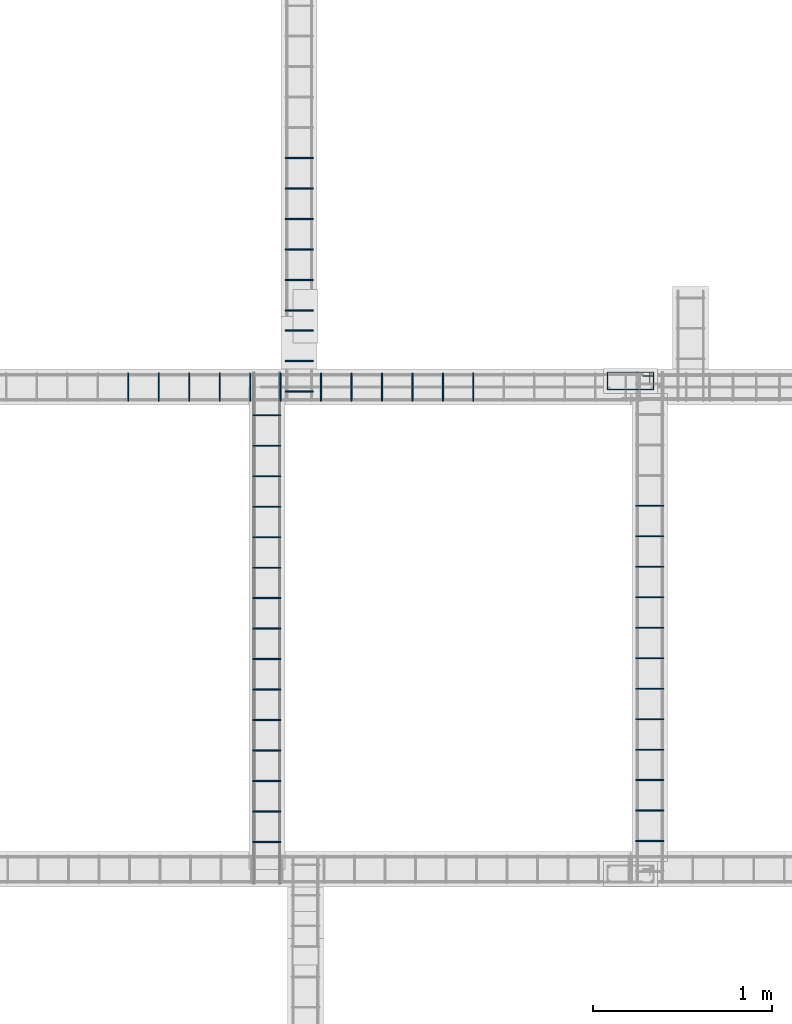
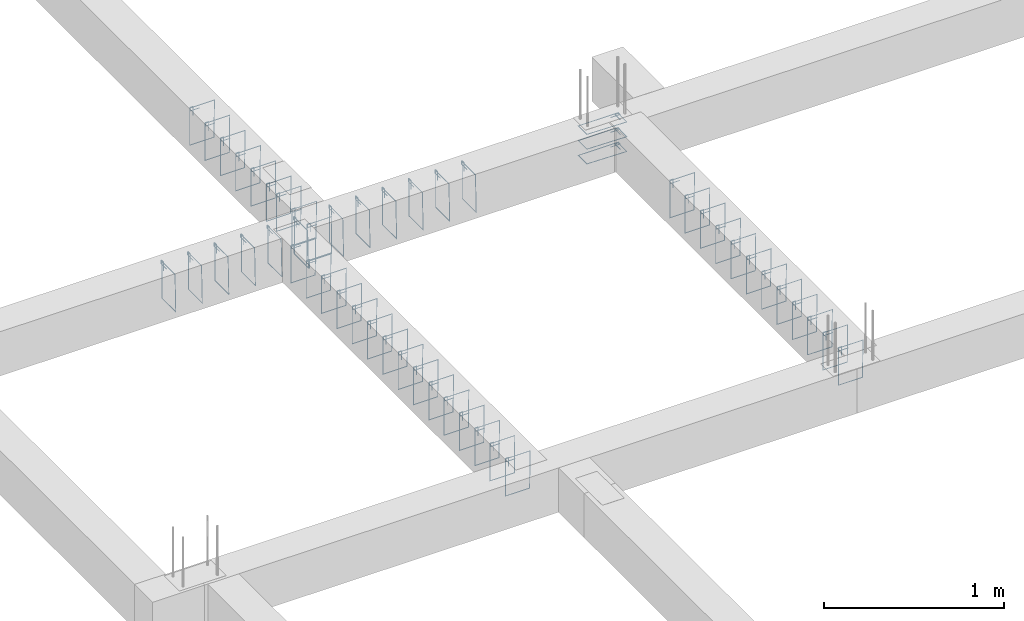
# One storey, part 113 of 150: 51 reinforcing bars.
"""IFC4 building model written with IfcOpenShell, lengths in centimetres."""

from ifc_helpers import new_model, entity, si_unit, derived_unit, frame, origin_with_axes, place, context, project, spatial, source, transform, mapped, element, save


model = new_model("IFC4")

# Units and contexts
model_context = context("Model", 3, precision=1e-05, world=origin_with_axes(), identifier="Body")
ifc_project = project(units=[si_unit("LENGTHUNIT", "METRE", prefix="CENTI"), si_unit("VOLUMEUNIT", "CUBIC_METRE"), si_unit("AREAUNIT", "SQUARE_METRE"), si_unit("POWERUNIT", "WATT"), si_unit("LUMINOUSFLUXUNIT", "LUMEN"), si_unit("ELECTRICCURRENTUNIT", "AMPERE"), si_unit("PRESSUREUNIT", "PASCAL", prefix="KILO"), si_unit("MASSUNIT", "GRAM", prefix="KILO"), si_unit("PLANEANGLEUNIT", "RADIAN"), derived_unit("VOLUMETRICFLOWRATEUNIT", [(si_unit("LENGTHUNIT", "METRE"), 3), (si_unit("TIMEUNIT", "SECOND"), -1)])], contexts=[model_context])

# Site, building, storey
site_placement = place(None, frame((-4000.0, 0.0, 0.0), z_axis=(0.0, 0.0, 1.0), x_axis=(1.0, 0.0, 0.0)))
site = spatial("IfcSite", under=ifc_project, at=site_placement, Name="PADRÃO")
building_placement = place(site_placement, frame((0.0, 0.0, -14.0)))
building = spatial("IfcBuilding", under=site, at=building_placement, Name="CRECHE PRÉ-ESCOLA TIPO 2")
placement = place(building_placement, origin_with_axes())
storey_placement = place(placement, frame((0.0, 0.0, 30.0), z_axis=(0.0, 0.0, 1.0), x_axis=(1.0, 0.0, 0.0)))
storey = spatial("IfcBuildingStorey", under=building, at=storey_placement, Name="VIGA BALDRAME", CompositionType="ELEMENT", Elevation=16.0)

# Reinforcing bars
shared_shape_1 = source(origin_with_axes(), model_context, "Body", "AdvancedSweptSolid", [
    entity("IfcSweptDiskSolid", entity("IfcCompositeCurve", [entity("IfcCompositeCurveSegment", "CONTINUOUS", True, entity("IfcPolyline", [entity("IfcCartesianPoint", [4.25, 21.75, 0.0]), entity("IfcCartesianPoint", [4.25, 27.75, 0.0])])), entity("IfcCompositeCurveSegment", "CONTINUOUS", True, entity("IfcPolyline", [entity("IfcCartesianPoint", [4.25, 27.75, 0.0]), entity("IfcCartesianPoint", [2.25, 27.75, 0.0])])), entity("IfcCompositeCurveSegment", "CONTINUOUS", True, entity("IfcPolyline", [entity("IfcCartesianPoint", [2.25, 27.75, 0.0]), entity("IfcCartesianPoint", [2.25, 2.25, 0.0])])), entity("IfcCompositeCurveSegment", "CONTINUOUS", True, entity("IfcPolyline", [entity("IfcCartesianPoint", [2.25, 2.25, 0.0]), entity("IfcCartesianPoint", [11.75, 2.25, 0.0])])), entity("IfcCompositeCurveSegment", "CONTINUOUS", True, entity("IfcPolyline", [entity("IfcCartesianPoint", [11.75, 2.25, 0.0]), entity("IfcCartesianPoint", [11.75, 27.75, -0.5])])), entity("IfcCompositeCurveSegment", "CONTINUOUS", True, entity("IfcPolyline", [entity("IfcCartesianPoint", [11.75, 27.75, -0.5]), entity("IfcCartesianPoint", [2.25, 27.75, -0.5])])), entity("IfcCompositeCurveSegment", "CONTINUOUS", True, entity("IfcPolyline", [entity("IfcCartesianPoint", [2.25, 27.75, -0.5]), entity("IfcCartesianPoint", [2.25, 25.75, -0.5])])), entity("IfcCompositeCurveSegment", "CONTINUOUS", True, entity("IfcPolyline", [entity("IfcCartesianPoint", [2.25, 25.75, -0.5]), entity("IfcCartesianPoint", [8.25, 25.75, -0.5])]))], False), 0.25),
])
for number, where, z_axis, x_axis, name in (
    (1, (670.0, 3479.49, -15.0), (0.0, 0.0, 1.0), (0.0, -1.0, 0.0), "P39 - Estribo"),
    (2, (670.0, 3479.49, -25.0), (0.0, 0.0, 1.0), (0.0, -1.0, 0.0), "P39 - Estribo"),
    (3, (670.0, 3479.49, -5.0), (0.0, 0.0, 1.0), (0.0, -1.0, 0.0), "P39 - Estribo"),
):
    element("IfcReinforcingBar", number, at=place(storey_placement, frame(where, z_axis=z_axis, x_axis=x_axis)), inside=storey, Name=name, BarLength=0.0, CrossSectionArea=1.9634954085e-05, NominalDiameter=0.5, PredefinedType="MAIN", context=model_context, shape_type="MappedRepresentation", body=[
        mapped(shared_shape_1, transform((0.0, 0.0, 0.0), scale=1.0)),
    ])
shared_shape_2 = source(origin_with_axes(), model_context, "Body", "AdvancedSweptSolid", [
    entity("IfcSweptDiskSolid", entity("IfcCompositeCurve", [entity("IfcCompositeCurveSegment", "CONTINUOUS", True, entity("IfcPolyline", [entity("IfcCartesianPoint", [2.0, -6.0, 0.0]), entity("IfcCartesianPoint", [2.0, 0.0, 0.0])])), entity("IfcCompositeCurveSegment", "CONTINUOUS", True, entity("IfcPolyline", [entity("IfcCartesianPoint", [2.0, 0.0, 0.0]), entity("IfcCartesianPoint", [0.0, 0.0, 0.0])])), entity("IfcCompositeCurveSegment", "CONTINUOUS", True, entity("IfcPolyline", [entity("IfcCartesianPoint", [0.0, 0.0, 0.0]), entity("IfcCartesianPoint", [0.0, -25.5, 0.0])])), entity("IfcCompositeCurveSegment", "CONTINUOUS", True, entity("IfcPolyline", [entity("IfcCartesianPoint", [0.0, -25.5, 0.0]), entity("IfcCartesianPoint", [15.5, -25.5, 0.0])])), entity("IfcCompositeCurveSegment", "CONTINUOUS", True, entity("IfcPolyline", [entity("IfcCartesianPoint", [15.5, -25.5, 0.0]), entity("IfcCartesianPoint", [15.5, 0.0, 0.5])])), entity("IfcCompositeCurveSegment", "CONTINUOUS", True, entity("IfcPolyline", [entity("IfcCartesianPoint", [15.5, 0.0, 0.5]), entity("IfcCartesianPoint", [0.0, 0.0, 0.5])])), entity("IfcCompositeCurveSegment", "CONTINUOUS", True, entity("IfcPolyline", [entity("IfcCartesianPoint", [0.0, 0.0, 0.5]), entity("IfcCartesianPoint", [0.0, -2.0, 0.5])])), entity("IfcCompositeCurveSegment", "CONTINUOUS", True, entity("IfcPolyline", [entity("IfcCartesianPoint", [0.0, -2.0, 0.5]), entity("IfcCartesianPoint", [6.0, -2.0, 0.5])]))], False), 0.25),
])
for number, where, z_axis, x_axis, name in (
    (4, (474.44, 3283.51, -2.25), (0.0, -1.0, 0.0), (1.0, 0.0, 0.0), "V172 - Estribo"),
    (5, (474.44, 3300.51, -2.25), (0.0, -1.0, 0.0), (1.0, 0.0, 0.0), "V172 - Estribo"),
    (6, (474.44, 3317.51, -2.25), (0.0, -1.0, 0.0), (1.0, 0.0, 0.0), "V172 - Estribo"),
    (7, (474.44, 3334.51, -2.25), (0.0, -1.0, 0.0), (1.0, 0.0, 0.0), "V172 - Estribo"),
    (8, (474.44, 3351.51, -2.25), (0.0, -1.0, 0.0), (1.0, 0.0, 0.0), "V172 - Estribo"),
    (9, (474.44, 3215.51, -2.25), (0.0, -1.0, 0.0), (1.0, 0.0, 0.0), "V172 - Estribo"),
    (10, (474.44, 3368.51, -2.25), (0.0, -1.0, 0.0), (1.0, 0.0, 0.0), "V172 - Estribo"),
    (11, (474.44, 3453.51, -2.25), (0.0, -1.0, 0.0), (1.0, 0.0, 0.0), "V172 - Estribo"),
    (12, (474.44, 3436.51, -2.25), (0.0, -1.0, 0.0), (1.0, 0.0, 0.0), "V172 - Estribo"),
    (13, (474.44, 3419.51, -2.25), (0.0, -1.0, 0.0), (1.0, 0.0, 0.0), "V172 - Estribo"),
    (14, (474.44, 3402.51, -2.25), (0.0, -1.0, 0.0), (1.0, 0.0, 0.0), "V172 - Estribo"),
    (15, (474.44, 3385.51, -2.25), (0.0, -1.0, 0.0), (1.0, 0.0, 0.0), "V172 - Estribo"),
    (16, (474.44, 3232.51, -2.25), (0.0, -1.0, 0.0), (1.0, 0.0, 0.0), "V172 - Estribo"),
    (17, (474.44, 3249.51, -2.25), (0.0, -1.0, 0.0), (1.0, 0.0, 0.0), "V172 - Estribo"),
    (18, (474.44, 3266.51, -2.25), (0.0, -1.0, 0.0), (1.0, 0.0, 0.0), "V172 - Estribo"),
):
    element("IfcReinforcingBar", number, at=place(storey_placement, frame(where, z_axis=z_axis, x_axis=x_axis)), inside=storey, Name=name, BarLength=0.0, CrossSectionArea=1.9634954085e-05, NominalDiameter=0.5, PredefinedType="MAIN", context=model_context, shape_type="MappedRepresentation", body=[
        mapped(shared_shape_2, transform((0.0, 0.0, 0.0), scale=1.0)),
    ])
shared_shape_3 = source(origin_with_axes(), model_context, "Body", "AdvancedSweptSolid", [
    entity("IfcSweptDiskSolid", entity("IfcCompositeCurve", [entity("IfcCompositeCurveSegment", "CONTINUOUS", True, entity("IfcPolyline", [entity("IfcCartesianPoint", [2.0, -6.0, 0.0]), entity("IfcCartesianPoint", [2.0, 0.0, 0.0])])), entity("IfcCompositeCurveSegment", "CONTINUOUS", True, entity("IfcPolyline", [entity("IfcCartesianPoint", [2.0, 0.0, 0.0]), entity("IfcCartesianPoint", [0.0, 0.0, 0.0])])), entity("IfcCompositeCurveSegment", "CONTINUOUS", True, entity("IfcPolyline", [entity("IfcCartesianPoint", [0.0, 0.0, 0.0]), entity("IfcCartesianPoint", [0.0, -25.5, 0.0])])), entity("IfcCompositeCurveSegment", "CONTINUOUS", True, entity("IfcPolyline", [entity("IfcCartesianPoint", [0.0, -25.5, 0.0]), entity("IfcCartesianPoint", [15.5, -25.5, 0.0])])), entity("IfcCompositeCurveSegment", "CONTINUOUS", True, entity("IfcPolyline", [entity("IfcCartesianPoint", [15.5, -25.5, 0.0]), entity("IfcCartesianPoint", [15.5, 0.0, 0.5])])), entity("IfcCompositeCurveSegment", "CONTINUOUS", True, entity("IfcPolyline", [entity("IfcCartesianPoint", [15.5, 0.0, 0.5]), entity("IfcCartesianPoint", [0.0, 0.0, 0.5])])), entity("IfcCompositeCurveSegment", "CONTINUOUS", True, entity("IfcPolyline", [entity("IfcCartesianPoint", [0.0, 0.0, 0.5]), entity("IfcCartesianPoint", [0.0, -2.0, 0.5])])), entity("IfcCompositeCurveSegment", "CONTINUOUS", True, entity("IfcPolyline", [entity("IfcCartesianPoint", [0.0, -2.0, 0.5]), entity("IfcCartesianPoint", [6.0, -2.0, 0.5])]))], False), 0.25),
])
for number, where, z_axis, x_axis, name in (
    (19, (492.44, 3466.75, -2.25), (0.0, -1.0, 0.0), (1.0, 0.0, 0.0), "V173 - Estribo"),
    (20, (492.44, 3483.75, -2.25), (0.0, -1.0, 0.0), (1.0, 0.0, 0.0), "V173 - Estribo"),
    (21, (492.44, 3500.75, -2.25), (0.0, -1.0, 0.0), (1.0, 0.0, 0.0), "V173 - Estribo"),
):
    element("IfcReinforcingBar", number, at=place(storey_placement, frame(where, z_axis=z_axis, x_axis=x_axis)), inside=storey, Name=name, BarLength=0.0, CrossSectionArea=1.9634954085e-05, NominalDiameter=0.5, PredefinedType="MAIN", context=model_context, shape_type="MappedRepresentation", body=[
        mapped(shared_shape_3, transform((0.0, 0.0, 0.0), scale=1.0)),
    ])
shared_shape_4 = source(origin_with_axes(), model_context, "Body", "AdvancedSweptSolid", [
    entity("IfcSweptDiskSolid", entity("IfcCompositeCurve", [entity("IfcCompositeCurveSegment", "CONTINUOUS", True, entity("IfcPolyline", [entity("IfcCartesianPoint", [2.0, -6.0, 0.0]), entity("IfcCartesianPoint", [2.0, 0.0, 0.0])])), entity("IfcCompositeCurveSegment", "CONTINUOUS", True, entity("IfcPolyline", [entity("IfcCartesianPoint", [2.0, 0.0, 0.0]), entity("IfcCartesianPoint", [0.0, 0.0, 0.0])])), entity("IfcCompositeCurveSegment", "CONTINUOUS", True, entity("IfcPolyline", [entity("IfcCartesianPoint", [0.0, 0.0, 0.0]), entity("IfcCartesianPoint", [0.0, -25.5, 0.0])])), entity("IfcCompositeCurveSegment", "CONTINUOUS", True, entity("IfcPolyline", [entity("IfcCartesianPoint", [0.0, -25.5, 0.0]), entity("IfcCartesianPoint", [15.5, -25.5, 0.0])])), entity("IfcCompositeCurveSegment", "CONTINUOUS", True, entity("IfcPolyline", [entity("IfcCartesianPoint", [15.5, -25.5, 0.0]), entity("IfcCartesianPoint", [15.5, 0.0, 0.5])])), entity("IfcCompositeCurveSegment", "CONTINUOUS", True, entity("IfcPolyline", [entity("IfcCartesianPoint", [15.5, 0.0, 0.5]), entity("IfcCartesianPoint", [0.0, 0.0, 0.5])])), entity("IfcCompositeCurveSegment", "CONTINUOUS", True, entity("IfcPolyline", [entity("IfcCartesianPoint", [0.0, 0.0, 0.5]), entity("IfcCartesianPoint", [0.0, -2.0, 0.5])])), entity("IfcCompositeCurveSegment", "CONTINUOUS", True, entity("IfcPolyline", [entity("IfcCartesianPoint", [0.0, -2.0, 0.5]), entity("IfcCartesianPoint", [6.0, -2.0, 0.5])]))], False), 0.25),
])
for number, where, z_axis, x_axis, name in (
    (22, (492.44, 3597.0, -2.25), (0.0, -1.0, 0.0), (1.0, 0.0, 0.0), "V173 - Estribo"),
    (23, (492.44, 3580.0, -2.25), (0.0, -1.0, 0.0), (1.0, 0.0, 0.0), "V173 - Estribo"),
    (24, (492.44, 3563.0, -2.25), (0.0, -1.0, 0.0), (1.0, 0.0, 0.0), "V173 - Estribo"),
    (25, (492.44, 3546.0, -2.25), (0.0, -1.0, 0.0), (1.0, 0.0, 0.0), "V173 - Estribo"),
    (26, (492.44, 3529.0, -2.25), (0.0, -1.0, 0.0), (1.0, 0.0, 0.0), "V173 - Estribo"),
    (27, (492.44, 3512.0, -2.25), (0.0, -1.0, 0.0), (1.0, 0.0, 0.0), "V173 - Estribo"),
):
    element("IfcReinforcingBar", number, at=place(storey_placement, frame(where, z_axis=z_axis, x_axis=x_axis)), inside=storey, Name=name, BarLength=0.0, CrossSectionArea=1.9634954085e-05, NominalDiameter=0.5, PredefinedType="MAIN", context=model_context, shape_type="MappedRepresentation", body=[
        mapped(shared_shape_4, transform((0.0, 0.0, 0.0), scale=1.0)),
    ])
shared_shape_5 = source(origin_with_axes(), model_context, "Body", "AdvancedSweptSolid", [
    entity("IfcSweptDiskSolid", entity("IfcCompositeCurve", [entity("IfcCompositeCurveSegment", "CONTINUOUS", True, entity("IfcPolyline", [entity("IfcCartesianPoint", [2.0, -6.0, 0.0]), entity("IfcCartesianPoint", [2.0, 0.0, 0.0])])), entity("IfcCompositeCurveSegment", "CONTINUOUS", True, entity("IfcPolyline", [entity("IfcCartesianPoint", [2.0, 0.0, 0.0]), entity("IfcCartesianPoint", [0.0, 0.0, 0.0])])), entity("IfcCompositeCurveSegment", "CONTINUOUS", True, entity("IfcPolyline", [entity("IfcCartesianPoint", [0.0, 0.0, 0.0]), entity("IfcCartesianPoint", [0.0, -25.5, 0.0])])), entity("IfcCompositeCurveSegment", "CONTINUOUS", True, entity("IfcPolyline", [entity("IfcCartesianPoint", [0.0, -25.5, 0.0]), entity("IfcCartesianPoint", [15.5, -25.5, 0.0])])), entity("IfcCompositeCurveSegment", "CONTINUOUS", True, entity("IfcPolyline", [entity("IfcCartesianPoint", [15.5, -25.5, 0.0]), entity("IfcCartesianPoint", [15.5, 0.0, 0.5])])), entity("IfcCompositeCurveSegment", "CONTINUOUS", True, entity("IfcPolyline", [entity("IfcCartesianPoint", [15.5, 0.0, 0.5]), entity("IfcCartesianPoint", [0.0, 0.0, 0.5])])), entity("IfcCompositeCurveSegment", "CONTINUOUS", True, entity("IfcPolyline", [entity("IfcCartesianPoint", [0.0, 0.0, 0.5]), entity("IfcCartesianPoint", [0.0, -2.0, 0.5])])), entity("IfcCompositeCurveSegment", "CONTINUOUS", True, entity("IfcPolyline", [entity("IfcCartesianPoint", [0.0, -2.0, 0.5]), entity("IfcCartesianPoint", [6.0, -2.0, 0.5])]))], False), 0.25),
])
for number, where, z_axis, x_axis, name in (
    (28, (687.98, 3402.99, -2.25), (0.0, -1.0, 0.0), (1.0, 0.0, 0.0), "V176 - Estribo"),
    (29, (687.98, 3283.99, -2.25), (0.0, -1.0, 0.0), (1.0, 0.0, 0.0), "V176 - Estribo"),
    (30, (687.98, 3368.99, -2.25), (0.0, -1.0, 0.0), (1.0, 0.0, 0.0), "V176 - Estribo"),
    (31, (687.98, 3351.99, -2.25), (0.0, -1.0, 0.0), (1.0, 0.0, 0.0), "V176 - Estribo"),
    (32, (687.98, 3334.99, -2.25), (0.0, -1.0, 0.0), (1.0, 0.0, 0.0), "V176 - Estribo"),
    (33, (687.98, 3317.99, -2.25), (0.0, -1.0, 0.0), (1.0, 0.0, 0.0), "V176 - Estribo"),
    (34, (687.98, 3300.99, -2.25), (0.0, -1.0, 0.0), (1.0, 0.0, 0.0), "V176 - Estribo"),
    (35, (687.98, 3266.99, -2.25), (0.0, -1.0, 0.0), (1.0, 0.0, 0.0), "V176 - Estribo"),
    (36, (687.98, 3249.99, -2.25), (0.0, -1.0, 0.0), (1.0, 0.0, 0.0), "V176 - Estribo"),
    (37, (687.98, 3232.99, -2.25), (0.0, -1.0, 0.0), (1.0, 0.0, 0.0), "V176 - Estribo"),
    (38, (687.98, 3215.99, -2.25), (0.0, -1.0, 0.0), (1.0, 0.0, 0.0), "V176 - Estribo"),
    (39, (687.98, 3385.99, -2.25), (0.0, -1.0, 0.0), (1.0, 0.0, 0.0), "V176 - Estribo"),
):
    element("IfcReinforcingBar", number, at=place(storey_placement, frame(where, z_axis=z_axis, x_axis=x_axis)), inside=storey, Name=name, BarLength=0.0, CrossSectionArea=1.9634954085e-05, NominalDiameter=0.5, PredefinedType="MAIN", context=model_context, shape_type="MappedRepresentation", body=[
        mapped(shared_shape_5, transform((0.0, 0.0, 0.0), scale=1.0)),
    ])
shared_shape_6 = source(origin_with_axes(), model_context, "Body", "AdvancedSweptSolid", [
    entity("IfcSweptDiskSolid", entity("IfcCompositeCurve", [entity("IfcCompositeCurveSegment", "CONTINUOUS", True, entity("IfcPolyline", [entity("IfcCartesianPoint", [2.0, -6.0, 0.0]), entity("IfcCartesianPoint", [2.0, 0.0, 0.0])])), entity("IfcCompositeCurveSegment", "CONTINUOUS", True, entity("IfcPolyline", [entity("IfcCartesianPoint", [2.0, 0.0, 0.0]), entity("IfcCartesianPoint", [0.0, 0.0, 0.0])])), entity("IfcCompositeCurveSegment", "CONTINUOUS", True, entity("IfcPolyline", [entity("IfcCartesianPoint", [0.0, 0.0, 0.0]), entity("IfcCartesianPoint", [0.0, -25.5, 0.0])])), entity("IfcCompositeCurveSegment", "CONTINUOUS", True, entity("IfcPolyline", [entity("IfcCartesianPoint", [0.0, -25.5, 0.0]), entity("IfcCartesianPoint", [15.5, -25.5, 0.0])])), entity("IfcCompositeCurveSegment", "CONTINUOUS", True, entity("IfcPolyline", [entity("IfcCartesianPoint", [15.5, -25.5, 0.0]), entity("IfcCartesianPoint", [15.5, 0.0, 0.5])])), entity("IfcCompositeCurveSegment", "CONTINUOUS", True, entity("IfcPolyline", [entity("IfcCartesianPoint", [15.5, 0.0, 0.5]), entity("IfcCartesianPoint", [0.0, 0.0, 0.5])])), entity("IfcCompositeCurveSegment", "CONTINUOUS", True, entity("IfcPolyline", [entity("IfcCartesianPoint", [0.0, 0.0, 0.5]), entity("IfcCartesianPoint", [0.0, -2.0, 0.5])])), entity("IfcCompositeCurveSegment", "CONTINUOUS", True, entity("IfcPolyline", [entity("IfcCartesianPoint", [0.0, -2.0, 0.5]), entity("IfcCartesianPoint", [6.0, -2.0, 0.5])]))], False), 0.25),
])
for number, where, z_axis, x_axis, name in (
    (40, (405.1, 3476.75, -2.25), (-1.0, 0.0, 0.0), (0.0, -1.0, 0.0), "V110 - Estribo"),
    (41, (422.1, 3476.75, -2.25), (-1.0, 0.0, 0.0), (0.0, -1.0, 0.0), "V110 - Estribo"),
    (42, (439.1, 3476.75, -2.25), (-1.0, 0.0, 0.0), (0.0, -1.0, 0.0), "V110 - Estribo"),
    (43, (490.1, 3476.75, -2.25), (-1.0, 0.0, 0.0), (0.0, -1.0, 0.0), "V110 - Estribo"),
    (44, (473.1, 3476.75, -2.25), (-1.0, 0.0, 0.0), (0.0, -1.0, 0.0), "V110 - Estribo"),
    (45, (456.1, 3476.75, -2.25), (-1.0, 0.0, 0.0), (0.0, -1.0, 0.0), "V110 - Estribo"),
):
    element("IfcReinforcingBar", number, at=place(storey_placement, frame(where, z_axis=z_axis, x_axis=x_axis)), inside=storey, Name=name, BarLength=0.0, CrossSectionArea=1.9634954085e-05, NominalDiameter=0.5, PredefinedType="MAIN", context=model_context, shape_type="MappedRepresentation", body=[
        mapped(shared_shape_6, transform((0.0, 0.0, 0.0), scale=1.0)),
    ])
shared_shape_7 = source(origin_with_axes(), model_context, "Body", "AdvancedSweptSolid", [
    entity("IfcSweptDiskSolid", entity("IfcCompositeCurve", [entity("IfcCompositeCurveSegment", "CONTINUOUS", True, entity("IfcPolyline", [entity("IfcCartesianPoint", [2.0, -6.0, 0.0]), entity("IfcCartesianPoint", [2.0, 0.0, 0.0])])), entity("IfcCompositeCurveSegment", "CONTINUOUS", True, entity("IfcPolyline", [entity("IfcCartesianPoint", [2.0, 0.0, 0.0]), entity("IfcCartesianPoint", [0.0, 0.0, 0.0])])), entity("IfcCompositeCurveSegment", "CONTINUOUS", True, entity("IfcPolyline", [entity("IfcCartesianPoint", [0.0, 0.0, 0.0]), entity("IfcCartesianPoint", [0.0, -25.5, 0.0])])), entity("IfcCompositeCurveSegment", "CONTINUOUS", True, entity("IfcPolyline", [entity("IfcCartesianPoint", [0.0, -25.5, 0.0]), entity("IfcCartesianPoint", [15.5, -25.5, 0.0])])), entity("IfcCompositeCurveSegment", "CONTINUOUS", True, entity("IfcPolyline", [entity("IfcCartesianPoint", [15.5, -25.5, 0.0]), entity("IfcCartesianPoint", [15.5, 0.0, 0.5])])), entity("IfcCompositeCurveSegment", "CONTINUOUS", True, entity("IfcPolyline", [entity("IfcCartesianPoint", [15.5, 0.0, 0.5]), entity("IfcCartesianPoint", [0.0, 0.0, 0.5])])), entity("IfcCompositeCurveSegment", "CONTINUOUS", True, entity("IfcPolyline", [entity("IfcCartesianPoint", [0.0, 0.0, 0.5]), entity("IfcCartesianPoint", [0.0, -2.0, 0.5])])), entity("IfcCompositeCurveSegment", "CONTINUOUS", True, entity("IfcPolyline", [entity("IfcCartesianPoint", [0.0, -2.0, 0.5]), entity("IfcCartesianPoint", [6.0, -2.0, 0.5])]))], False), 0.25),
])
for number, where, z_axis, x_axis, name in (
    (46, (597.595, 3476.75, -2.25), (-1.0, 0.0, 0.0), (0.0, -1.0, 0.0), "V110 - Estribo"),
    (47, (580.595, 3476.75, -2.25), (-1.0, 0.0, 0.0), (0.0, -1.0, 0.0), "V110 - Estribo"),
    (48, (563.595, 3476.75, -2.25), (-1.0, 0.0, 0.0), (0.0, -1.0, 0.0), "V110 - Estribo"),
    (49, (546.595, 3476.75, -2.25), (-1.0, 0.0, 0.0), (0.0, -1.0, 0.0), "V110 - Estribo"),
    (50, (529.595, 3476.75, -2.25), (-1.0, 0.0, 0.0), (0.0, -1.0, 0.0), "V110 - Estribo"),
    (51, (512.595, 3476.75, -2.25), (-1.0, 0.0, 0.0), (0.0, -1.0, 0.0), "V110 - Estribo"),
):
    element("IfcReinforcingBar", number, at=place(storey_placement, frame(where, z_axis=z_axis, x_axis=x_axis)), inside=storey, Name=name, BarLength=0.0, CrossSectionArea=1.9634954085e-05, NominalDiameter=0.5, PredefinedType="MAIN", context=model_context, shape_type="MappedRepresentation", body=[
        mapped(shared_shape_7, transform((0.0, 0.0, 0.0), scale=1.0)),
    ])

save(model, "model.ifc")
